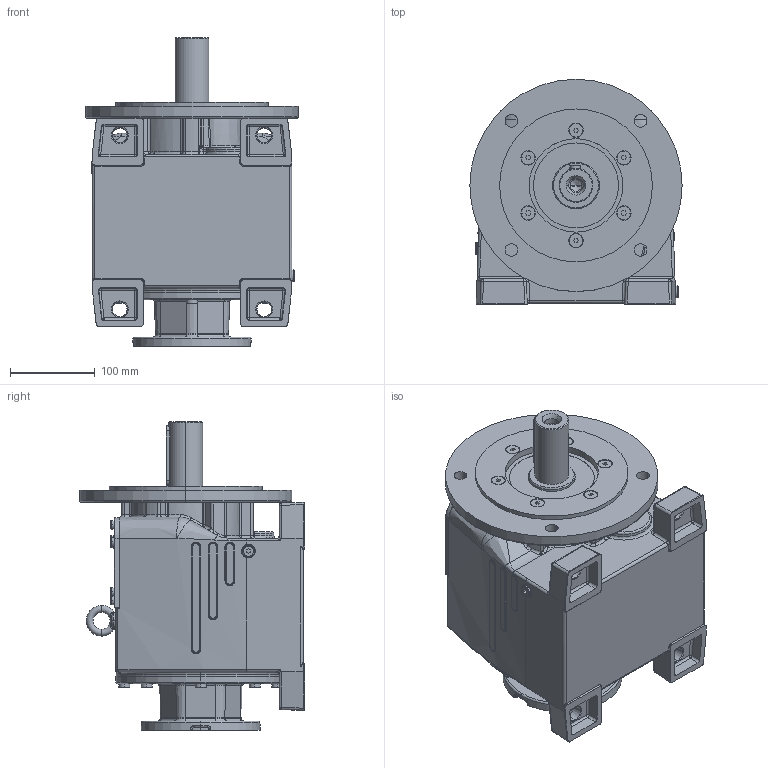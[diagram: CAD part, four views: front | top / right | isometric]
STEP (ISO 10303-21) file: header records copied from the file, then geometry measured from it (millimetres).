
FILE_DESCRIPTION (( 'STEP AP214' ), '1' );
FILE_NAME ('MTC53A-80-115+VP.STEP', '2006-05-05T06:44:18', ( '' ), ( '' ), 'SwSTEP 2.0', 'SolidWorks 2004146', '' );
FILE_SCHEMA (( 'AUTOMOTIVE_DESIGN' ));
Length unit declared in the file: millimetre
Products named in the file (6): pøíruba115 d72 MRT80a_Výchozí; Skrin MTC5_A_MTC53A_AP80; Výst_pøíruba MTC_A_MTC5_A; D6912_Šroub DIN 6912 - M6x25; D7991_Šroub DIN 7991 - M8 x 25; MTC53A-80-115+VP
Assembly tree (15 placements, depth 2):
  MTC53A-80-115+VP
    pøíruba115 d72 MRT80a_Výchozí
    D6912_Šroub DIN 6912 - M6x25  x6
    D7991_Šroub DIN 7991 - M8 x 25  x6
    Skrin MTC5_A_MTC53A_AP80
    Výst_pøíruba MTC_A_MTC5_A
Bounding box: 250 x 265 x 363.5 mm (x, y, z)
Volume: 10337117.4 mm3; surface area: 504581.7 mm2
Topology: 15 solids, 15 shells, 1794 faces, 4181 edges, 2433 vertices
Faces by surface type: plane 498, cylinder 459, torus 341, cone 224, bspline 219, sphere 53
Entity records: 155587 total; most frequent: CARTESIAN_POINT 117400, DIRECTION 7274, ORIENTED_EDGE 7112, EDGE_CURVE 3556, AXIS2_PLACEMENT_3D 2993, VERTEX_POINT 2145, CIRCLE 1680, EDGE_LOOP 1661
